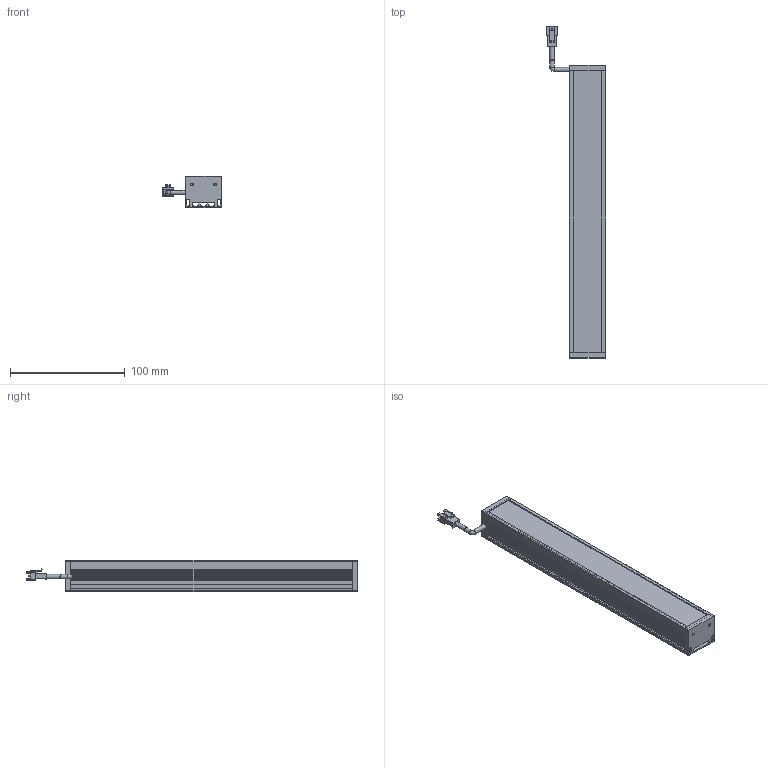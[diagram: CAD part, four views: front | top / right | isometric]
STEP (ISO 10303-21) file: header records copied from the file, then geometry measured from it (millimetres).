
FILE_DESCRIPTION(/* description */ (''),/* implementation_level */ '2;1');
FILE_NAME(/* name */ '',/* time_stamp */ '2024-02-21T10:44:53+08:00',/* author */ (''),/* organization */ (''),/* preprocessor_version */ 'ST-DEVELOPER v20',/* originating_system */ 'Autodesk Translation Framework v12.20.1.177',/* authorisation */ '');
FILE_SCHEMA (('AUTOMOTIVE_DESIGN { 1 0 10303 214 3 1 1 }'));
Length unit declared in the file: millimetre
Products named in the file (6): L30; 3拼母头 v2; 主体; 漫射板; 挡头 (1); 挡头
Assembly tree (5 placements, depth 2):
  L30
    3拼母头 v2
    主体
    漫射板
    挡头 (1)
    挡头
Bounding box: 52 x 289 x 27 mm (x, y, z)
Volume: 91439.6 mm3; surface area: 86646.8 mm2
Topology: 6 solids, 6 shells, 416 faces, 1179 edges, 784 vertices
Faces by surface type: plane 300, cylinder 111, cone 4, torus 1
Full cylindrical faces by diameter (mm): 2.529 x4, 3.8 x3
Entity records: 13619 total; most frequent: CARTESIAN_POINT 2391, ORIENTED_EDGE 2350, DIRECTION 2265, EDGE_CURVE 1175, LINE 937, VECTOR 937, VERTEX_POINT 784, AXIS2_PLACEMENT_3D 664
